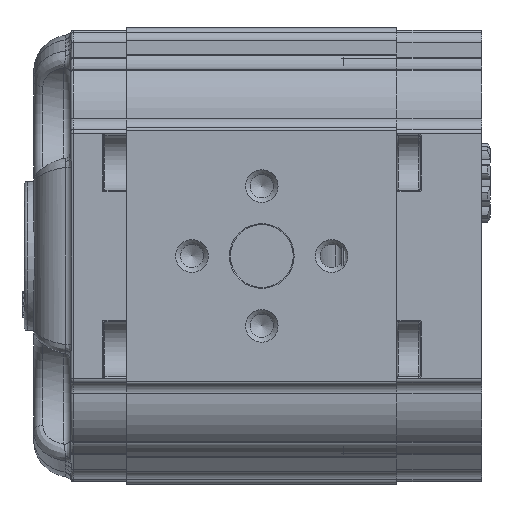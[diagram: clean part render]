
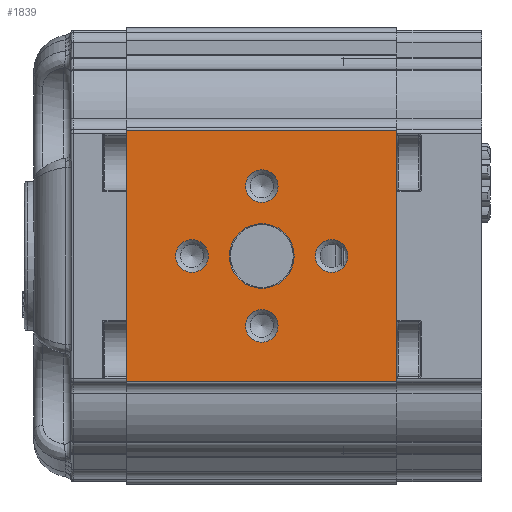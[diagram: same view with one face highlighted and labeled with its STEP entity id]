
A CAD part, left-side view. The second image highlights one B-rep face of the part: STEP entity #1839.
In plain terms, the highlighted planar face has unit normal (-1, 0, 0).
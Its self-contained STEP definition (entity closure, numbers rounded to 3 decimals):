
#1839 = ADVANCED_FACE( '', ( #5376, #5377, #5378, #5379, #5380, #5381 ), #5382, .T. );
#5376 = FACE_BOUND( '', #10851, .T. );
#5377 = FACE_BOUND( '', #10852, .T. );
#5378 = FACE_BOUND( '', #10853, .T. );
#5379 = FACE_BOUND( '', #10854, .T. );
#5380 = FACE_BOUND( '', #10855, .T. );
#5381 = FACE_OUTER_BOUND( '', #10856, .T. );
#5382 = PLANE( '', #10857 );
#10851 = EDGE_LOOP( '', ( #19094 ) );
#10852 = EDGE_LOOP( '', ( #19095 ) );
#10853 = EDGE_LOOP( '', ( #19096 ) );
#10854 = EDGE_LOOP( '', ( #19097 ) );
#10855 = EDGE_LOOP( '', ( #19098 ) );
#10856 = EDGE_LOOP( '', ( #19099, #19100, #19101, #19102 ) );
#10857 = AXIS2_PLACEMENT_3D( '', #19103, #19104, #19105 );
#19094 = ORIENTED_EDGE( '', *, *, #35218, .T. );
#19095 = ORIENTED_EDGE( '', *, *, #35219, .T. );
#19096 = ORIENTED_EDGE( '', *, *, #35220, .T. );
#19097 = ORIENTED_EDGE( '', *, *, #35221, .T. );
#19098 = ORIENTED_EDGE( '', *, *, #35222, .T. );
#19099 = ORIENTED_EDGE( '', *, *, #35223, .F. );
#19100 = ORIENTED_EDGE( '', *, *, #35224, .F. );
#19101 = ORIENTED_EDGE( '', *, *, #35225, .T. );
#19102 = ORIENTED_EDGE( '', *, *, #35226, .T. );
#19103 = CARTESIAN_POINT( '', ( -43., 58., 27.048 ) );
#19104 = DIRECTION( '', ( -1., 0., 0. ) );
#19105 = DIRECTION( '', ( 0., 0., 1. ) );
#35218 = EDGE_CURVE( '', #41631, #41631, #41632, .F. );
#35219 = EDGE_CURVE( '', #41633, #41633, #41634, .F. );
#35220 = EDGE_CURVE( '', #41635, #41635, #41636, .F. );
#35221 = EDGE_CURVE( '', #41637, #41637, #41638, .F. );
#35222 = EDGE_CURVE( '', #41639, #41639, #41640, .F. );
#35223 = EDGE_CURVE( '', #41641, #41642, #41643, .T. );
#35224 = EDGE_CURVE( '', #41644, #41641, #41645, .T. );
#35225 = EDGE_CURVE( '', #41644, #41646, #41647, .T. );
#35226 = EDGE_CURVE( '', #41646, #41642, #41648, .T. );
#41631 = VERTEX_POINT( '', #50856 );
#41632 = CIRCLE( '', #50857, 3.5 );
#41633 = VERTEX_POINT( '', #50858 );
#41634 = CIRCLE( '', #50859, 3.5 );
#41635 = VERTEX_POINT( '', #50860 );
#41636 = CIRCLE( '', #50861, 3.5 );
#41637 = VERTEX_POINT( '', #50862 );
#41638 = CIRCLE( '', #50863, 3.5 );
#41639 = VERTEX_POINT( '', #50864 );
#41640 = CIRCLE( '', #50865, 6.95 );
#41641 = VERTEX_POINT( '', #50866 );
#41642 = VERTEX_POINT( '', #50867 );
#41643 = LINE( '', #50868, #50869 );
#41644 = VERTEX_POINT( '', #50870 );
#41645 = LINE( '', #50871, #50872 );
#41646 = VERTEX_POINT( '', #50873 );
#41647 = LINE( '', #50874, #50875 );
#41648 = LINE( '', #50876, #50877 );
#50856 = CARTESIAN_POINT( '', ( -43., 14., 3.5 ) );
#50857 = AXIS2_PLACEMENT_3D( '', #68002, #68003, #68004 );
#50858 = CARTESIAN_POINT( '', ( -43., 44., 3.5 ) );
#50859 = AXIS2_PLACEMENT_3D( '', #68005, #68006, #68007 );
#50860 = CARTESIAN_POINT( '', ( -43., 29., -11.5 ) );
#50861 = AXIS2_PLACEMENT_3D( '', #68008, #68009, #68010 );
#50862 = CARTESIAN_POINT( '', ( -43., 29., 18.5 ) );
#50863 = AXIS2_PLACEMENT_3D( '', #68011, #68012, #68013 );
#50864 = CARTESIAN_POINT( '', ( -43., 29., 6.95 ) );
#50865 = AXIS2_PLACEMENT_3D( '', #68014, #68015, #68016 );
#50866 = CARTESIAN_POINT( '', ( -43., 0., 27.048 ) );
#50867 = CARTESIAN_POINT( '', ( -43., 0., -27.048 ) );
#50868 = CARTESIAN_POINT( '', ( -43., 0., 27.048 ) );
#50869 = VECTOR( '', #68017, 1000. );
#50870 = CARTESIAN_POINT( '', ( -43., 58., 27.048 ) );
#50871 = CARTESIAN_POINT( '', ( -43., 58., 27.048 ) );
#50872 = VECTOR( '', #68018, 1000. );
#50873 = CARTESIAN_POINT( '', ( -43., 58., -27.048 ) );
#50874 = CARTESIAN_POINT( '', ( -43., 58., 27.048 ) );
#50875 = VECTOR( '', #68019, 1000. );
#50876 = CARTESIAN_POINT( '', ( -43., 58., -27.048 ) );
#50877 = VECTOR( '', #68020, 1000. );
#68002 = CARTESIAN_POINT( '', ( -43., 14., 0. ) );
#68003 = DIRECTION( '', ( -1., 0., 0. ) );
#68004 = DIRECTION( '', ( 0., 0., 1. ) );
#68005 = CARTESIAN_POINT( '', ( -43., 44., 0. ) );
#68006 = DIRECTION( '', ( -1., 0., 0. ) );
#68007 = DIRECTION( '', ( 0., 0., 1. ) );
#68008 = CARTESIAN_POINT( '', ( -43., 29., -15. ) );
#68009 = DIRECTION( '', ( -1., 0., 0. ) );
#68010 = DIRECTION( '', ( 0., 0., 1. ) );
#68011 = CARTESIAN_POINT( '', ( -43., 29., 15. ) );
#68012 = DIRECTION( '', ( -1., 0., 0. ) );
#68013 = DIRECTION( '', ( 0., 0., 1. ) );
#68014 = CARTESIAN_POINT( '', ( -43., 29., 0. ) );
#68015 = DIRECTION( '', ( -1., 0., 0. ) );
#68016 = DIRECTION( '', ( 0., 0., 1. ) );
#68017 = DIRECTION( '', ( 0., 0., -1. ) );
#68018 = DIRECTION( '', ( 0., -1., 0. ) );
#68019 = DIRECTION( '', ( 0., 0., -1. ) );
#68020 = DIRECTION( '', ( 0., -1., 0. ) );
